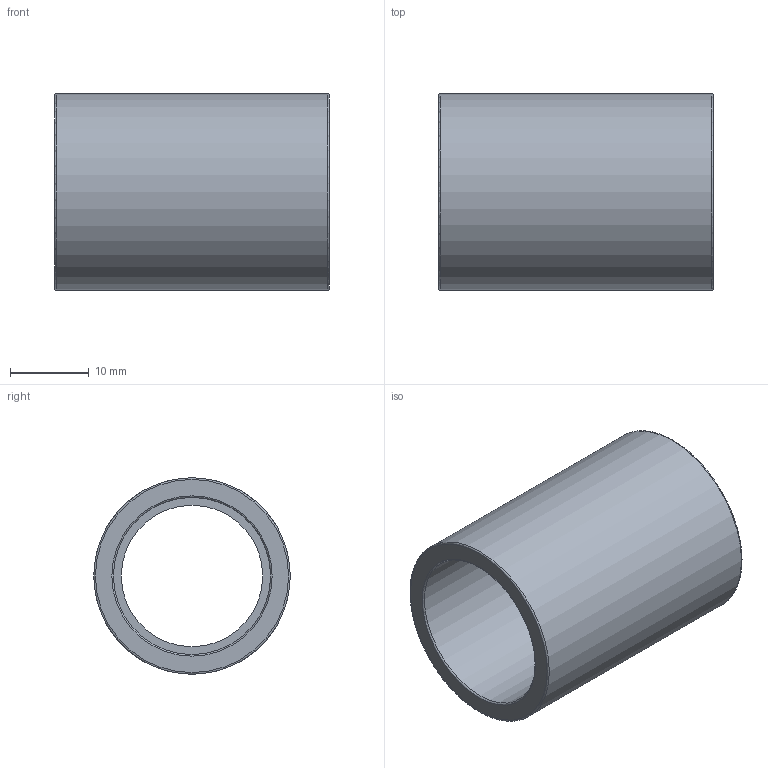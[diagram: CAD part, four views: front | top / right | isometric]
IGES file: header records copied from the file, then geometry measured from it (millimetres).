
Global section: file name: 050100020.ipt; native system: Autodesk Inventor 2015; preprocessor: unknown; author: KIM; date: 20171207.164001; units: millimetre
Bounding box: 35 x 25 x 25 mm (x, y, z)
Volume: 6361.7 mm3; surface area: 5377.7 mm2
Topology: 1 solids, 1 shells, 12 faces, 34 edges, 26 vertices
Faces by surface type: revolution 7, plane 4, cylinder 1
Full cylindrical faces by diameter (mm): 25 x1
